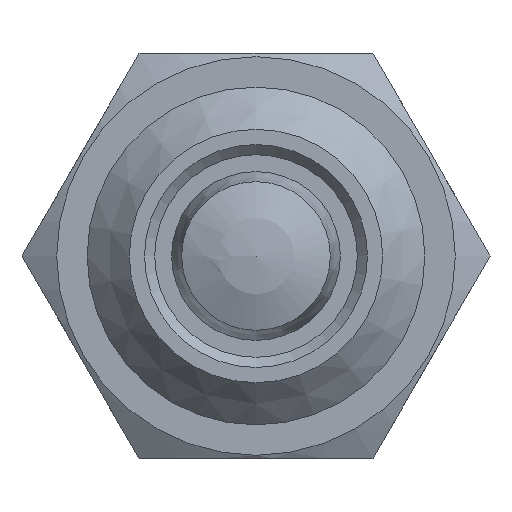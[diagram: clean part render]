
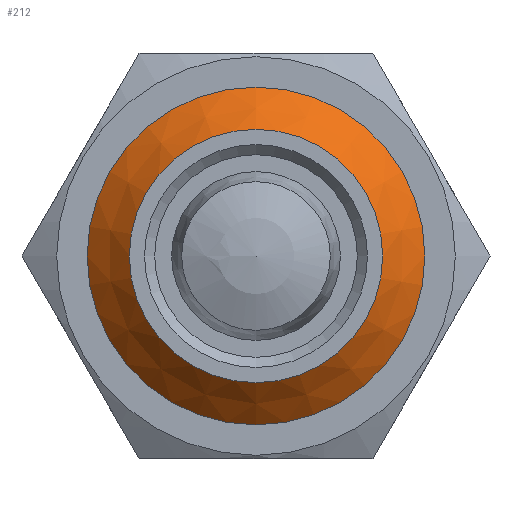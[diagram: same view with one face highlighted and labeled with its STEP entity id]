
A CAD part, front view. The second image highlights one B-rep face of the part: STEP entity #212.
In plain terms, the highlighted conical face has half-angle 45 degrees and reference radius 5 mm.
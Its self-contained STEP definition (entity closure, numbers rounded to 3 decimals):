
#212 = ADVANCED_FACE( '', ( #257, #258 ), #259, .T. );
#257 = FACE_BOUND( '', #356, .T. );
#258 = FACE_OUTER_BOUND( '', #357, .T. );
#259 = CONICAL_SURFACE( '', #358, 5., 0.785 );
#356 = EDGE_LOOP( '', ( #483 ) );
#357 = EDGE_LOOP( '', ( #484 ) );
#358 = AXIS2_PLACEMENT_3D( '', #485, #486, #487 );
#483 = ORIENTED_EDGE( '', *, *, #654, .F. );
#484 = ORIENTED_EDGE( '', *, *, #655, .T. );
#485 = CARTESIAN_POINT( '', ( 0., 1.25, 0. ) );
#486 = DIRECTION( '', ( 0., 1., 0. ) );
#487 = DIRECTION( '', ( 0., 0., 1. ) );
#654 = EDGE_CURVE( '', #714, #714, #715, .T. );
#655 = EDGE_CURVE( '', #716, #716, #717, .T. );
#714 = VERTEX_POINT( '', #894 );
#715 = CIRCLE( '', #895, 3.75 );
#716 = VERTEX_POINT( '', #896 );
#717 = CIRCLE( '', #897, 5. );
#894 = CARTESIAN_POINT( '', ( 0., 0., -3.75 ) );
#895 = AXIS2_PLACEMENT_3D( '', #976, #977, #978 );
#896 = CARTESIAN_POINT( '', ( 0., 1.25, -5. ) );
#897 = AXIS2_PLACEMENT_3D( '', #979, #980, #981 );
#976 = CARTESIAN_POINT( '', ( 0., 0., 0. ) );
#977 = DIRECTION( '', ( 0., -1., 0. ) );
#978 = DIRECTION( '', ( 0., 0., -1. ) );
#979 = CARTESIAN_POINT( '', ( 0., 1.25, 0. ) );
#980 = DIRECTION( '', ( 0., -1., 0. ) );
#981 = DIRECTION( '', ( 0., 0., -1. ) );
